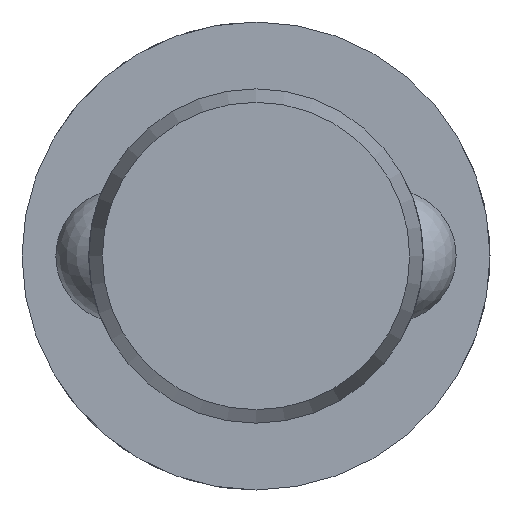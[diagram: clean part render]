
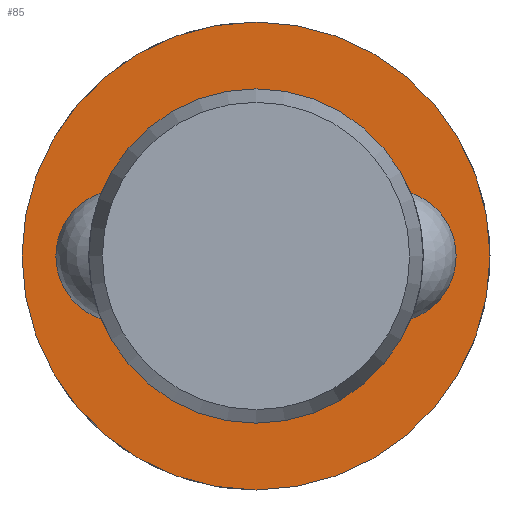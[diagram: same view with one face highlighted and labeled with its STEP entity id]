
A CAD part, left-side view. The second image highlights one B-rep face of the part: STEP entity #85.
In plain terms, the highlighted planar face has unit normal (-1, 0, 0).
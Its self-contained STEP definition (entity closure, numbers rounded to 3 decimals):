
#85 = ADVANCED_FACE( '', ( #130, #131 ), #132, .F. );
#130 = FACE_OUTER_BOUND( '', #200, .T. );
#131 = FACE_BOUND( '', #201, .T. );
#132 = PLANE( '', #202 );
#200 = EDGE_LOOP( '', ( #315 ) );
#201 = EDGE_LOOP( '', ( #316 ) );
#202 = AXIS2_PLACEMENT_3D( '', #317, #318, #319 );
#315 = ORIENTED_EDGE( '', *, *, #458, .F. );
#316 = ORIENTED_EDGE( '', *, *, #455, .T. );
#317 = CARTESIAN_POINT( '', ( 119.6, 5., 0. ) );
#318 = DIRECTION( '', ( 1., 0., 0. ) );
#319 = DIRECTION( '', ( 0., 0., -1. ) );
#455 = EDGE_CURVE( '', #528, #528, #529, .T. );
#458 = EDGE_CURVE( '', #534, #534, #535, .T. );
#528 = VERTEX_POINT( '', #732 );
#529 = CIRCLE( '', #733, 5. );
#534 = VERTEX_POINT( '', #844 );
#535 = CIRCLE( '', #845, 7. );
#732 = CARTESIAN_POINT( '', ( 119.6, 0., -5. ) );
#733 = AXIS2_PLACEMENT_3D( '', #922, #923, #924 );
#844 = CARTESIAN_POINT( '', ( 119.6, 0., -7. ) );
#845 = AXIS2_PLACEMENT_3D( '', #925, #926, #927 );
#922 = CARTESIAN_POINT( '', ( 119.6, 0., 0. ) );
#923 = DIRECTION( '', ( 1., 0., 0. ) );
#924 = DIRECTION( '', ( 0., 0., -1. ) );
#925 = CARTESIAN_POINT( '', ( 119.6, 0., 0. ) );
#926 = DIRECTION( '', ( 1., 0., 0. ) );
#927 = DIRECTION( '', ( 0., 0., -1. ) );
